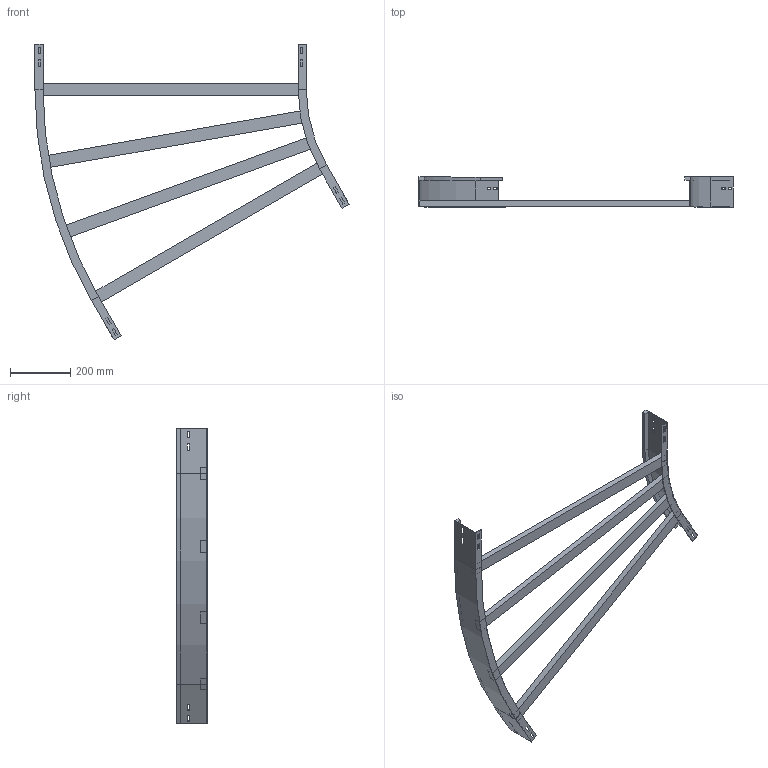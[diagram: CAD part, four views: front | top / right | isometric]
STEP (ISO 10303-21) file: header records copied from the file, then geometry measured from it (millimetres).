
FILE_DESCRIPTION (( 'STEP AP214' ), '1' );
FILE_NAME ('12B5D900.step', '2025-02-21T15:06:58', ( '' ), ( '' ), 'SwSTEP 2.0', 'SolidWorks 2023', '' );
FILE_SCHEMA (( 'AUTOMOTIVE_DESIGN' ));
Length unit declared in the file: millimetre
Products named in the file (4): A2_LONGH.ESTERNO 30°_H100_R500+900; TRAVERSINO_900; A2_LONGH.INTERNO 30°_H100_R500; 12B5D900
Assembly tree (6 placements, depth 2):
  12B5D900
    A2_LONGH.INTERNO 30°_H100_R500
    A2_LONGH.ESTERNO 30°_H100_R500+900
    TRAVERSINO_900  x4
Bounding box: 1041.99 x 100 x 979.9 mm (x, y, z)
Volume: 3603030.3 mm3; surface area: 894963.6 mm2
Topology: 6 solids, 6 shells, 140 faces, 352 edges, 224 vertices
Faces by surface type: plane 132, cylinder 8
Entity records: 3829 total; most frequent: CARTESIAN_POINT 647, ORIENTED_EDGE 632, DIRECTION 594, EDGE_CURVE 316, VECTOR 300, LINE 300, VERTEX_POINT 200, EDGE_LOOP 154
